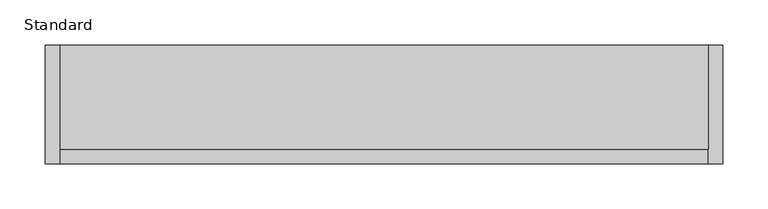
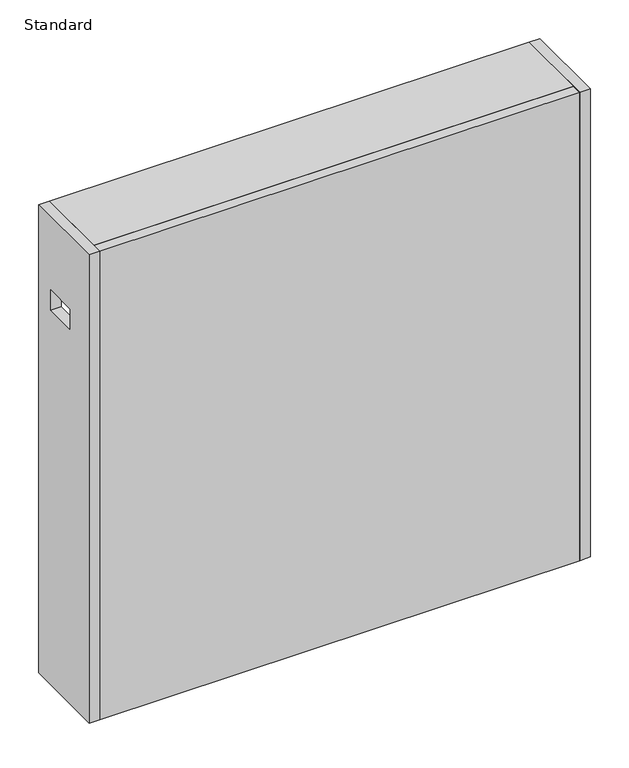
"""IFC4 building model written with IfcOpenShell, lengths in millimetres: furniture geometry, X_Partition-Compact Laminate-Duracube-Mirror Cabinet : Standard."""

import ifcopenshell
import ifcopenshell.guid

model = None  # the IFC model being written
_history = None  # IfcOwnerHistory: only IFC2X3 demands one
_inside = {}  # id of a spatial element -> (the spatial element, [elements in it])
_under = {}  # id of a project, library or spatial element -> (it, [spatial elements below it])
_declared = {}  # id of a project -> (the project, [libraries it declares])
_typed = {}  # id of a type object -> (the type object, [elements of that type])
_made_of = {}  # id of a material, layer set ... -> (it, [elements and type objects made of it])


def new_model(schema):
    """Start an empty IFC model of exactly this schema.

    Asked for "IFC4X3", IfcOpenShell would pick the latest addendum, in which some entities
    have other attributes; the version numbers below select the first issue.
    IFC2X3 requires an IfcOwnerHistory on every rooted entity: one is made here for all.
    """
    global model, _history
    if schema == "IFC4X3":
        model = ifcopenshell.file(schema_version=(4, 3, 0, 0))
    else:
        model = ifcopenshell.file(schema=schema)
    _inside.clear()
    _under.clear()
    _declared.clear()
    _typed.clear()
    _made_of.clear()
    _history = None
    if model.schema == "IFC2X3":
        org = make("IfcOrganization", Name="unknown")
        user = make(
            "IfcPersonAndOrganization",
            ThePerson=make("IfcPerson", FamilyName="unknown"),
            TheOrganization=org,
        )
        app = make(
            "IfcApplication",
            ApplicationDeveloper=org,
            Version="unknown",
            ApplicationFullName="unknown",
            ApplicationIdentifier="unknown",
        )
        _history = make(
            "IfcOwnerHistory",
            OwningUser=user,
            OwningApplication=app,
            ChangeAction="ADDED",
            CreationDate=0,
        )
    return model


def make(cls, **values):
    """One entity of the class cls with the attributes given. An attribute that is None is left unset."""
    return model.create_entity(
        cls, **{name: value for name, value in values.items() if value is not None}
    )


def rooted(cls, **values):
    """An entity with a GlobalId (a new one), such as an element, a storey or a relation."""
    return make(cls, GlobalId=ifcopenshell.guid.new(), OwnerHistory=_history, **values)


def si_unit(unit_type, name, prefix=None):
    """IfcSIUnit, for example si_unit("LENGTHUNIT", "METRE", prefix="MILLI")."""
    return make("IfcSIUnit", UnitType=unit_type, Prefix=prefix, Name=name)


def assignment(units):
    """IfcUnitAssignment: the units of a project."""
    return None if units is None else make("IfcUnitAssignment", Units=units)


def point(xyz):
    """IfcCartesianPoint."""
    return None if xyz is None else make("IfcCartesianPoint", Coordinates=xyz)


def direction(xyz):
    """IfcDirection."""
    return None if xyz is None else make("IfcDirection", DirectionRatios=xyz)


def frame(location, z_axis=None, x_axis=None):
    """IfcAxis2Placement3D, a coordinate frame: its origin and axes. An axis left out is left unset."""
    return make(
        "IfcAxis2Placement3D",
        Location=point(location),
        Axis=direction(z_axis),
        RefDirection=direction(x_axis),
    )


def frame_2d(location, x_axis=None):
    """IfcAxis2Placement2D, a coordinate frame in the plane: its origin and x axis."""
    return make(
        "IfcAxis2Placement2D", Location=point(location), RefDirection=direction(x_axis)
    )


def origin():
    """The frame at (0, 0, 0) with its axes left unset."""
    return frame((0.0, 0.0, 0.0))


def origin_with_axes():
    """The frame at (0, 0, 0) with the z axis (0, 0, 1) and the x axis (1, 0, 0) written out."""
    return frame((0.0, 0.0, 0.0), z_axis=(0.0, 0.0, 1.0), x_axis=(1.0, 0.0, 0.0))


def place(relative_to, where):
    """IfcLocalPlacement: puts the frame where relative to a parent placement (None: the world)."""
    return make(
        "IfcLocalPlacement", PlacementRelTo=relative_to, RelativePlacement=where
    )


def context(
    kind, dimensions, precision=None, world=None, true_north=None, identifier=None
):
    """IfcGeometricRepresentationContext, for example the 3D "Model" context."""
    return make(
        "IfcGeometricRepresentationContext",
        ContextIdentifier=identifier,
        ContextType=kind,
        CoordinateSpaceDimension=dimensions,
        Precision=precision,
        WorldCoordinateSystem=world,
        TrueNorth=true_north,
    )


def project(units=None, contexts=None):
    """IfcProject with its units and contexts."""
    return rooted(
        "IfcProject",
        Name="project",
        RepresentationContexts=contexts,
        UnitsInContext=assignment(units),
    )


def spatial(cls, under=None, at=None, **own):
    """A site, building, storey or space (cls), placed at a placement, below another one or the project."""
    s = rooted(cls, ObjectPlacement=at, **own)
    if under is not None:
        _under.setdefault(under.id(), (under, []))[1].append(s)
    return s


def polyline(points):
    """IfcPolyline through the points."""
    return make("IfcPolyline", Points=[point(p) for p in points])


def circle_curve(where, radius):
    """IfcCircle in the frame where."""
    return make("IfcCircle", Position=where, Radius=radius)


def ellipse_curve(where, semi_axis1, semi_axis2):
    """IfcEllipse in the frame where."""
    return make(
        "IfcEllipse", Position=where, SemiAxis1=semi_axis1, SemiAxis2=semi_axis2
    )


def trimmed(basis, trim1, trim2, sense, master):
    """IfcTrimmedCurve: the piece of a basis curve between two trims."""
    return make(
        "IfcTrimmedCurve",
        BasisCurve=basis,
        Trim1=trim1,
        Trim2=trim2,
        SenseAgreement=sense,
        MasterRepresentation=master,
    )


def segment(curve, same_sense, transition):
    """IfcCompositeCurveSegment."""
    return make(
        "IfcCompositeCurveSegment",
        Transition=transition,
        SameSense=same_sense,
        ParentCurve=curve,
    )


def composite_curve(segments, self_intersect=None):
    """IfcCompositeCurve: segments joined end to end."""
    return make("IfcCompositeCurve", Segments=segments, SelfIntersect=self_intersect)


def outline(outer, holes=None, kind="AREA"):
    """IfcArbitraryClosedProfileDef: a profile drawn as a closed curve; with holes, ...WithVoids."""
    if holes is None:
        return make("IfcArbitraryClosedProfileDef", ProfileType=kind, OuterCurve=outer)
    return make(
        "IfcArbitraryProfileDefWithVoids",
        ProfileType=kind,
        OuterCurve=outer,
        InnerCurves=holes,
    )


def extrude(swept, where, along, depth):
    """IfcExtrudedAreaSolid: the profile swept, set in the frame where, extruded along a direction by depth."""
    return make(
        "IfcExtrudedAreaSolid",
        SweptArea=swept,
        Position=where,
        ExtrudedDirection=direction(along),
        Depth=depth,
    )


def shape(context_of_items, identifier, shape_type, items):
    """IfcShapeRepresentation: the items that make up one representation, for example the "Body"."""
    return make(
        "IfcShapeRepresentation",
        ContextOfItems=context_of_items,
        RepresentationIdentifier=identifier,
        RepresentationType=shape_type,
        Items=items,
    )


def source(mapping_origin, context_of_items, identifier, shape_type, items):
    """IfcRepresentationMap: a shape defined once, which mapped items show again and again."""
    return make(
        "IfcRepresentationMap",
        MappingOrigin=mapping_origin,
        MappedRepresentation=shape(context_of_items, identifier, shape_type, items),
    )


def transform(
    local_origin,
    x_axis=None,
    y_axis=None,
    z_axis=None,
    scale=None,
    scale2=None,
    scale3=None,
    uniform=True,
):
    """IfcCartesianTransformationOperator3D, or its non-uniform kind. x_axis, y_axis, z_axis: its Axis1, 2, 3."""
    if uniform:
        return make(
            "IfcCartesianTransformationOperator3D",
            Axis1=direction(x_axis),
            Axis2=direction(y_axis),
            LocalOrigin=point(local_origin),
            Scale=scale,
            Axis3=direction(z_axis),
        )
    return make(
        "IfcCartesianTransformationOperator3DnonUniform",
        Axis1=direction(x_axis),
        Axis2=direction(y_axis),
        LocalOrigin=point(local_origin),
        Scale=scale,
        Axis3=direction(z_axis),
        Scale2=scale2,
        Scale3=scale3,
    )


def mapped(mapping_source, mapping_target):
    """IfcMappedItem: shows the shape of a source again, moved by a transform."""
    return make(
        "IfcMappedItem", MappingSource=mapping_source, MappingTarget=mapping_target
    )


def made_of(thing, what):
    """Note that an element or type object is made of a material, layer set ...; save() writes the relation."""
    if what is not None:
        _made_of.setdefault(what.id(), (what, []))[1].append(thing)
    return thing


def element(
    cls,
    number,
    at=None,
    inside=None,
    cuts=None,
    type_object=None,
    material=None,
    context=None,
    identifier="Body",
    shape_type=None,
    held_by="IfcProductDefinitionShape",
    body=None,
    shapes=None,
    **own,
):
    """One element of the class cls, such as IfcWall. Its Tag is "e" and its number.

    at: its placement. inside: the storey or other place that contains it. cuts: it is an
    opening in that element (IfcRelVoidsElement). A single representation is given by context,
    identifier, shape_type and body (its items); several are given by shapes. held_by: the class
    of the entity that holds the representations. save() writes the other relations.
    """
    e = rooted(cls, Tag="e%d" % number, ObjectPlacement=at, **own)
    if body is not None:
        shapes = [shape(context, identifier, shape_type, body)]
    if shapes is not None:
        e.Representation = make(held_by, Representations=shapes)
    if inside is not None:
        _inside.setdefault(inside.id(), (inside, []))[1].append(e)
    if cuts is not None:
        rooted(
            "IfcRelVoidsElement", RelatingBuildingElement=cuts, RelatedOpeningElement=e
        )
    if type_object is not None:
        _typed.setdefault(type_object.id(), (type_object, []))[1].append(e)
    return made_of(e, material)


def aggregate(whole, parts):
    """IfcRelAggregates: a whole, such as a stair, and the parts it consists of."""
    return rooted("IfcRelAggregates", RelatingObject=whole, RelatedObjects=parts)


def save(model, path):
    """Write the relations noted so far, then the file.

    IfcRelAggregates (storeys below a building ...), IfcRelContainedInSpatialStructure (elements
    in a storey), IfcRelDefinesByType, IfcRelAssociatesMaterial and IfcRelDeclares: one each for
    every whole, place, type object, material and project.
    """
    for whole, parts in _under.values():
        aggregate(whole, parts)
    for where, things in _inside.values():
        rooted(
            "IfcRelContainedInSpatialStructure",
            RelatedElements=things,
            RelatingStructure=where,
        )
    for kind, things in _typed.values():
        rooted("IfcRelDefinesByType", RelatedObjects=things, RelatingType=kind)
    for what, things in _made_of.values():
        rooted("IfcRelAssociatesMaterial", RelatedObjects=things, RelatingMaterial=what)
    for by, libraries in _declared.values():
        rooted("IfcRelDeclares", RelatingContext=by, RelatedDefinitions=libraries)
    model.write(path)


def plane_surface(at):
    """IfcPlane: the flat surface through the origin of the frame at, square to its z axis."""
    return make("IfcPlane", Position=at)


def revolved_surface(curve, axis_point, axis_direction):
    """IfcSurfaceOfRevolution: the curve turned about the line through axis_point along axis_direction."""
    return make(
        "IfcSurfaceOfRevolution",
        SweptCurve=make("IfcArbitraryOpenProfileDef", ProfileType="CURVE", Curve=curve),
        AxisPosition=make("IfcAxis1Placement", Location=point(axis_point), Axis=direction(axis_direction)),
    )


def advanced_brep(points, edges, surfaces, faces):
    """IfcAdvancedBrep: a solid bounded by faces that lie on surfaces and meet in shared edges.

    An edge is (start, end): straight between two places in points (the first is 0);
    or (start, end, curve); or (start, end, curve, False) where it runs against its curve.
    A face is (place in surfaces, loops), or (place, loops, False) where it looks against
    its surface's normal. A loop lists edges by number (the first is 1), with a minus sign
    where the edge is run from its end to its start. The first loop is the outer one.
    """
    corners = [point(p) for p in points]
    vertices = [make("IfcVertexPoint", VertexGeometry=c) for c in corners]
    made = []
    for start, end, *more in edges:
        made.append(
            make(
                "IfcEdgeCurve",
                EdgeStart=vertices[start],
                EdgeEnd=vertices[end],
                EdgeGeometry=more[0] if more else make("IfcPolyline", Points=[corners[start], corners[end]]),
                SameSense=more[1] if len(more) > 1 else True,
            )
        )
    hull = []
    for where, loops, *sense in faces:
        bounds = []
        for j, loop in enumerate(loops):
            ring = [make("IfcOrientedEdge", EdgeElement=made[abs(k) - 1], Orientation=k > 0) for k in loop]
            bounds.append(
                make(
                    "IfcFaceOuterBound" if j == 0 else "IfcFaceBound",
                    Bound=make("IfcEdgeLoop", EdgeList=ring),
                    Orientation=True,
                )
            )
        hull.append(make("IfcAdvancedFace", Bounds=bounds, FaceSurface=surfaces[where], SameSense=sense[0] if sense else True))
    return make("IfcAdvancedBrep", Outer=make("IfcClosedShell", CfsFaces=hull))


def standard_4e694d97(model_context):
    return source(origin(), model_context, "Body", "SolidModel", [
        extrude(outline(composite_curve([segment(trimmed(circle_curve(frame_2d((369.7003264, 748.5)), 11.0), [point((358.7003264, 748.5))], [point((380.7003264, 748.5))], False, "CARTESIAN"), True, "CONTINUOUS"), segment(trimmed(circle_curve(frame_2d((369.7003264, 748.5)), 11.0), [point((380.7003264, 748.5))], [point((358.7003264, 748.5))], False, "CARTESIAN"), True, "CONTINUOUS")], self_intersect=False)), frame((0.0, 0.0, 8.0), z_axis=(0.0, 0.0, 1.0), x_axis=(1.0, 0.0, 0.0)), (0.0, 0.0, 1.0), 2.0),
        advanced_brep(
        [(369.7003264, 739.5, 7.0), (369.7003264, 737.5, 8.0), (369.7003264, 759.5, 8.0), (369.7003264, 757.5, 7.0), (369.7003264, 739.5, 8.0), (369.7003264, 757.5, 8.0)],
        [
            (0, 1, ellipse_curve(frame((369.7003264, 739.5, 8.0), z_axis=(-1.0, 0.0, 0.0), x_axis=(0.0, -1.0, 0.0)), 2.0, 1.0)),
            (1, 2, circle_curve(frame((369.7003264, 748.5, 8.0), z_axis=(0.0, 0.0, -1.0), x_axis=(0.0, 1.0, 0.0)), 11.0)),
            (2, 3, ellipse_curve(frame((369.7003264, 757.5, 8.0), z_axis=(-1.0, 0.0, 0.0), x_axis=(0.0, 1.0, 0.0)), 2.0, 1.0)),
            (3, 0, circle_curve(frame((369.7003264, 748.5, 7.0), z_axis=(0.0, 0.0, 1.0), x_axis=(0.0, 1.0, 0.0)), 9.0)),
            (2, 1, circle_curve(frame((369.7003264, 748.5, 8.0), z_axis=(0.0, 0.0, -1.0), x_axis=(0.0, 1.0, 0.0)), 11.0)),
            (0, 3, circle_curve(frame((369.7003264, 748.5, 7.0), z_axis=(0.0, 0.0, 1.0), x_axis=(0.0, 1.0, 0.0)), 9.0)),
            (4, 0),
            (3, 5),
            (5, 4, circle_curve(frame((369.7003264, 748.5, 8.0), z_axis=(0.0, 0.0, 1.0), x_axis=(0.0, 1.0, 0.0)), 9.0)),
            (4, 5, circle_curve(frame((369.7003264, 748.5, 8.0), z_axis=(0.0, 0.0, 1.0), x_axis=(0.0, 1.0, 0.0)), 9.0)),
            (1, 4),
            (5, 2),
        ],
        [
            revolved_surface(trimmed(ellipse_curve(frame((369.7003264, 757.5, 8.0), z_axis=(-1.0, 0.0, 0.0), x_axis=(0.0, 1.0, 0.0)), 2.0, 1.0), [point((369.7003264, 759.5, 8.0))], [point((369.7003264, 757.5, 7.0))], True, "CARTESIAN"), (369.7003264, 748.5, 8.0), (0.0, 0.0, -1.0)),
            revolved_surface(polyline([(369.7003264, 757.5, 7.0), (369.7003264, 757.5, 8.0)]), (369.7003264, 748.5, 8.0), (0.0, 0.0, -1.0)),
            plane_surface(frame((369.7003264, 748.5, 8.0), z_axis=(0.0, 0.0, 1.0), x_axis=(0.0, 1.0, 0.0))),
        ],
        [
            (0, [[1, 2, 3, 4]]),
            (0, [[-3, 5, -1, 6]]),
            (1, [[7, -4, 8, 9]]),
            (1, [[-8, -6, -7, 10]]),
            (2, [[11, -9, 12, -2]]),
            (2, [[-12, -10, -11, -5]]),
        ],
    ),
        extrude(outline(polyline([(370.7003264, 755.5), (370.7003264, 741.5), (368.7003264, 741.5), (368.7003264, 755.5), (370.7003264, 755.5)])), frame((0.0, 0.0, 1.0), z_axis=(0.0, 0.0, 1.0), x_axis=(1.0, 0.0, 0.0)), (0.0, 0.0, 1.0), 2.0),
        extrude(outline(composite_curve([segment(trimmed(circle_curve(frame_2d((369.7003264, 748.5)), 9.0), [point((360.7003264, 748.5))], [point((378.7003264, 748.5))], False, "CARTESIAN"), True, "CONTINUOUS"), segment(trimmed(circle_curve(frame_2d((369.7003264, 748.5)), 9.0), [point((378.7003264, 748.5))], [point((360.7003264, 748.5))], False, "CARTESIAN"), True, "CONTINUOUS")], self_intersect=False), holes=[polyline([(370.7003264, 755.5), (368.7003264, 755.5), (368.7003264, 741.5), (370.7003264, 741.5), (370.7003264, 755.5)])]), origin_with_axes(), (0.0, 0.0, 1.0), 8.0),
        extrude(outline(polyline([(773.5, 750.0), (773.5, 10.0), (642.5, 10.0), (642.5, 750.0), (773.5, 750.0)]), holes=[polyline([(742.5, 634.0), (692.5, 634.0), (692.5, 602.0), (742.5, 602.0), (742.5, 634.0)])]), frame((-330.2996736, 0.0, 0.0), z_axis=(1.0, 0.0, 0.0), x_axis=(0.0, 1.0, 0.0)), (0.0, 0.0, 1.0), 16.0),
        extrude(outline(polyline([(403.7003264, 658.5), (-314.2996736, 658.5), (-314.2996736, 773.5), (403.7003264, 773.5), (403.7003264, 658.5)])), frame((0.0, 0.0, 734.0), z_axis=(0.0, 0.0, 1.0), x_axis=(1.0, 0.0, 0.0)), (0.0, 0.0, 1.0), 16.0),
        extrude(outline(polyline([(419.7003264, 642.5), (403.7003264, 642.5), (403.7003264, 773.5), (419.7003264, 773.5), (419.7003264, 642.5)])), frame((0.0, 0.0, 10.0), z_axis=(0.0, 0.0, 1.0), x_axis=(1.0, 0.0, 0.0)), (0.0, 0.0, 1.0), 740.0),
        extrude(outline(polyline([(403.7003264, 642.5), (-314.2996736, 642.5), (-314.2996736, 658.5), (403.7003264, 658.5), (403.7003264, 642.5)])), frame((0.0, 0.0, 10.0), z_axis=(0.0, 0.0, 1.0), x_axis=(1.0, 0.0, 0.0)), (0.0, 0.0, 1.0), 740.0),
        extrude(outline(polyline([(403.7003264, 658.5), (309.7003264, 658.5), (309.7003264, 773.5), (403.7003264, 773.5), (403.7003264, 658.5)])), frame((0.0, 0.0, 10.0), z_axis=(0.0, 0.0, 1.0), x_axis=(1.0, 0.0, 0.0)), (0.0, 0.0, 1.0), 16.0),
        extrude(outline(polyline([(23.7003264, 658.5), (-85.2996736, 658.5), (-85.2996736, 773.5), (23.7003264, 773.5), (23.7003264, 658.5)])), frame((0.0, 0.0, 10.0), z_axis=(0.0, 0.0, 1.0), x_axis=(1.0, 0.0, 0.0)), (0.0, 0.0, 1.0), 16.0),
        extrude(outline(polyline([(-220.2996736, 658.5), (-314.2996736, 658.5), (-314.2996736, 773.5), (-220.2996736, 773.5), (-220.2996736, 658.5)])), frame((0.0, 0.0, 10.0), z_axis=(0.0, 0.0, 1.0), x_axis=(1.0, 0.0, 0.0)), (0.0, 0.0, 1.0), 16.0),
    ])


if __name__ == "__main__":
    model = new_model("IFC4")
    model_context = context("Model", 3, world=origin())
    ifc_project = project(units=[si_unit("LENGTHUNIT", "METRE", prefix="MILLI")], contexts=[model_context])
    site = spatial("IfcSite", under=ifc_project)
    building = spatial("IfcBuilding", under=site)
    placement = place(None, origin())
    standard_shape = standard_4e694d97(model_context)
    element("IfcFurniture", 1, ObjectType="X_Partition-Compact Laminate-Duracube-Mirror Cabinet : Standard", at=placement, inside=building, context=model_context, shape_type="MappedRepresentation", body=[
        mapped(standard_shape, transform((0.0, 0.0, 0.0), x_axis=(1.0, 0.0, 0.0), y_axis=(0.0, 1.0, 0.0), z_axis=(0.0, 0.0, 1.0))),
    ])
    save(model, "model.ifc")
